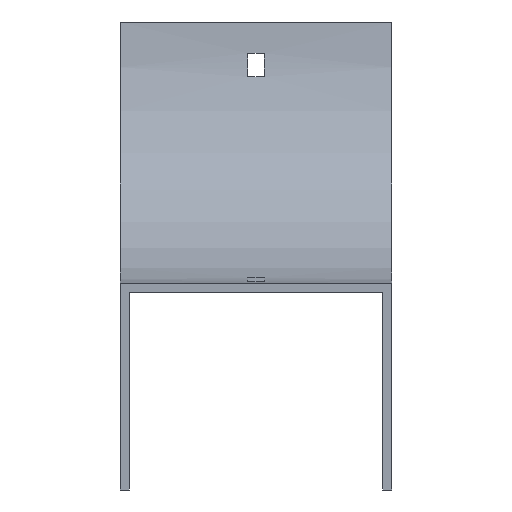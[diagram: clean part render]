
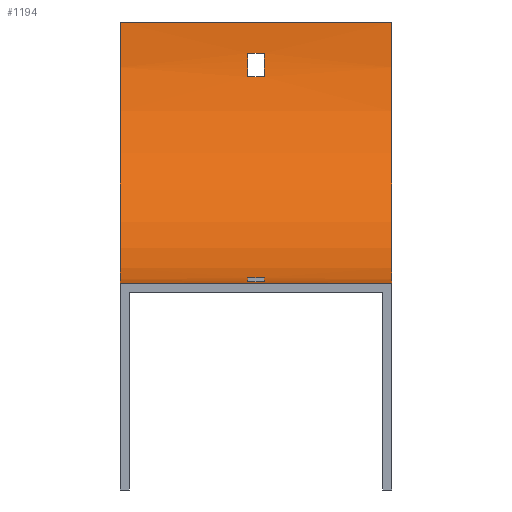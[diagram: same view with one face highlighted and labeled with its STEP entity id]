
A CAD part, front view. The second image highlights one B-rep face of the part: STEP entity #1194.
In plain terms, the highlighted cylindrical face has radius 100 mm (diameter 200 mm), a partial arc.
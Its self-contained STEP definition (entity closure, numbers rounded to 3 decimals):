
#15 = EDGE_LOOP ( 'NONE', ( #286, #810, #1552, #749 ) ) ;
#24 = CARTESIAN_POINT ( 'NONE',  ( 3.25, -88., -99.277 ) ) ;
#66 = CARTESIAN_POINT ( 'NONE',  ( -3.25, -88., -99.277 ) ) ;
#84 = ORIENTED_EDGE ( 'NONE', *, *, #838, .F. ) ;
#91 = DIRECTION ( 'NONE',  ( -1., 0., 0. ) ) ;
#93 = ORIENTED_EDGE ( 'NONE', *, *, #957, .F. ) ;
#98 = DIRECTION ( 'NONE',  ( -1., 0., 0. ) ) ;
#104 = DIRECTION ( 'NONE',  ( -1., 0., 0. ) ) ;
#106 = DIRECTION ( 'NONE',  ( -1., 0., 0. ) ) ;
#113 = VERTEX_POINT ( 'NONE', #1312 ) ;
#114 = EDGE_CURVE ( 'NONE', #1269, #695, #1587, .T. ) ;
#115 = CIRCLE ( 'NONE', #640, 100. ) ;
#124 = CARTESIAN_POINT ( 'NONE',  ( -3.25, -100., 0. ) ) ;
#129 = CARTESIAN_POINT ( 'NONE',  ( -3.25, -79., -97.77 ) ) ;
#150 = CARTESIAN_POINT ( 'NONE',  ( 52., 0., 0. ) ) ;
#174 = CARTESIAN_POINT ( 'NONE',  ( 52., -100., -100. ) ) ;
#182 = CIRCLE ( 'NONE', #1134, 100. ) ;
#193 = CARTESIAN_POINT ( 'NONE',  ( 52., -100., 0. ) ) ;
#201 = FACE_BOUND ( 'NONE', #15, .T. ) ;
#229 = AXIS2_PLACEMENT_3D ( 'NONE', #356, #104, #628 ) ;
#232 = VECTOR ( 'NONE', #923, 1000. ) ;
#234 = CARTESIAN_POINT ( 'NONE',  ( 52., -79., -97.77 ) ) ;
#257 = LINE ( 'NONE', #234, #776 ) ;
#260 = AXIS2_PLACEMENT_3D ( 'NONE', #752, #886, #351 ) ;
#286 = ORIENTED_EDGE ( 'NONE', *, *, #817, .T. ) ;
#344 = LINE ( 'NONE', #1389, #521 ) ;
#351 = DIRECTION ( 'NONE',  ( 0., 0., 1. ) ) ;
#356 = CARTESIAN_POINT ( 'NONE',  ( -52., -100., 0. ) ) ;
#373 = LINE ( 'NONE', #1279, #1222 ) ;
#395 = VERTEX_POINT ( 'NONE', #767 ) ;
#404 = EDGE_CURVE ( 'NONE', #474, #1351, #257, .T. ) ;
#407 = DIRECTION ( 'NONE',  ( -1., 0., 0. ) ) ;
#421 = CARTESIAN_POINT ( 'NONE',  ( 3.25, -100., 0. ) ) ;
#431 = VECTOR ( 'NONE', #98, 1000. ) ;
#455 = VERTEX_POINT ( 'NONE', #24 ) ;
#470 = ORIENTED_EDGE ( 'NONE', *, *, #504, .T. ) ;
#474 = VERTEX_POINT ( 'NONE', #546 ) ;
#504 = EDGE_CURVE ( 'NONE', #1332, #1268, #1471, .T. ) ;
#521 = VECTOR ( 'NONE', #1620, 1000. ) ;
#536 = CIRCLE ( 'NONE', #260, 100. ) ;
#546 = CARTESIAN_POINT ( 'NONE',  ( 3.25, -79., -97.77 ) ) ;
#555 = CARTESIAN_POINT ( 'NONE',  ( -52., -100., -100. ) ) ;
#598 = DIRECTION ( 'NONE',  ( -1., 0., 0. ) ) ;
#609 = EDGE_CURVE ( 'NONE', #746, #113, #115, .T. ) ;
#628 = DIRECTION ( 'NONE',  ( 0., 0., 1. ) ) ;
#631 = ORIENTED_EDGE ( 'NONE', *, *, #1375, .T. ) ;
#633 = CARTESIAN_POINT ( 'NONE',  ( 52., 0., 0. ) ) ;
#640 = AXIS2_PLACEMENT_3D ( 'NONE', #1171, #662, #1276 ) ;
#662 = DIRECTION ( 'NONE',  ( -1., 0., 0. ) ) ;
#695 = VERTEX_POINT ( 'NONE', #555 ) ;
#735 = VERTEX_POINT ( 'NONE', #66 ) ;
#746 = VERTEX_POINT ( 'NONE', #931 ) ;
#749 = ORIENTED_EDGE ( 'NONE', *, *, #609, .T. ) ;
#752 = CARTESIAN_POINT ( 'NONE',  ( -3.25, -100., 0. ) ) ;
#767 = CARTESIAN_POINT ( 'NONE',  ( -3.25, -2.23, -21. ) ) ;
#776 = VECTOR ( 'NONE', #106, 1000. ) ;
#810 = ORIENTED_EDGE ( 'NONE', *, *, #1271, .T. ) ;
#813 = DIRECTION ( 'NONE',  ( 0., -1., 0. ) ) ;
#816 = EDGE_LOOP ( 'NONE', ( #631, #1461, #1580, #470 ) ) ;
#817 = EDGE_CURVE ( 'NONE', #113, #395, #373, .T. ) ;
#838 = EDGE_CURVE ( 'NONE', #1351, #735, #1572, .T. ) ;
#886 = DIRECTION ( 'NONE',  ( 1., 0., 0. ) ) ;
#900 = ORIENTED_EDGE ( 'NONE', *, *, #1472, .F. ) ;
#923 = DIRECTION ( 'NONE',  ( -1., 0., 0. ) ) ;
#931 = CARTESIAN_POINT ( 'NONE',  ( 3.25, -0.723, -12. ) ) ;
#939 = DIRECTION ( 'NONE',  ( 1., 0., 0. ) ) ;
#957 = EDGE_CURVE ( 'NONE', #735, #455, #1535, .T. ) ;
#1025 = CARTESIAN_POINT ( 'NONE',  ( 52., -100., -100. ) ) ;
#1127 = VERTEX_POINT ( 'NONE', #1654 ) ;
#1132 = EDGE_CURVE ( 'NONE', #1127, #746, #344, .T. ) ;
#1134 = AXIS2_PLACEMENT_3D ( 'NONE', #1595, #407, #1176 ) ;
#1171 = CARTESIAN_POINT ( 'NONE',  ( 3.25, -100., 0. ) ) ;
#1176 = DIRECTION ( 'NONE',  ( 0., 0., 1. ) ) ;
#1194 = ADVANCED_FACE ( 'NONE', ( #1374, #201, #1366 ), #1239, .F. ) ;
#1222 = VECTOR ( 'NONE', #1254, 1000. ) ;
#1239 = CYLINDRICAL_SURFACE ( 'NONE', #1486, 100. ) ;
#1240 = DIRECTION ( 'NONE',  ( 0., 1., 0. ) ) ;
#1248 = DIRECTION ( 'NONE',  ( 0., 0., 1. ) ) ;
#1254 = DIRECTION ( 'NONE',  ( -1., 0., 0. ) ) ;
#1261 = EDGE_LOOP ( 'NONE', ( #84, #1400, #900, #93 ) ) ;
#1268 = VERTEX_POINT ( 'NONE', #1425 ) ;
#1269 = VERTEX_POINT ( 'NONE', #1025 ) ;
#1271 = EDGE_CURVE ( 'NONE', #395, #1127, #536, .T. ) ;
#1276 = DIRECTION ( 'NONE',  ( 0., 0., -1. ) ) ;
#1279 = CARTESIAN_POINT ( 'NONE',  ( 52., -2.23, -21. ) ) ;
#1312 = CARTESIAN_POINT ( 'NONE',  ( 3.25, -2.23, -21. ) ) ;
#1332 = VERTEX_POINT ( 'NONE', #633 ) ;
#1351 = VERTEX_POINT ( 'NONE', #129 ) ;
#1366 = FACE_BOUND ( 'NONE', #1261, .T. ) ;
#1374 = FACE_OUTER_BOUND ( 'NONE', #816, .T. ) ;
#1375 = EDGE_CURVE ( 'NONE', #1268, #695, #1463, .T. ) ;
#1389 = CARTESIAN_POINT ( 'NONE',  ( 52., -0.723, -12. ) ) ;
#1400 = ORIENTED_EDGE ( 'NONE', *, *, #404, .F. ) ;
#1425 = CARTESIAN_POINT ( 'NONE',  ( -52., 0., 0. ) ) ;
#1456 = CARTESIAN_POINT ( 'NONE',  ( 52., -88., -99.277 ) ) ;
#1461 = ORIENTED_EDGE ( 'NONE', *, *, #114, .F. ) ;
#1463 = CIRCLE ( 'NONE', #229, 100. ) ;
#1471 = LINE ( 'NONE', #150, #232 ) ;
#1472 = EDGE_CURVE ( 'NONE', #455, #474, #1518, .T. ) ;
#1476 = DIRECTION ( 'NONE',  ( 1., 0., 0. ) ) ;
#1486 = AXIS2_PLACEMENT_3D ( 'NONE', #193, #598, #1248 ) ;
#1518 = CIRCLE ( 'NONE', #1640, 100. ) ;
#1535 = LINE ( 'NONE', #1456, #1644 ) ;
#1552 = ORIENTED_EDGE ( 'NONE', *, *, #1132, .T. ) ;
#1572 = CIRCLE ( 'NONE', #1687, 100. ) ;
#1580 = ORIENTED_EDGE ( 'NONE', *, *, #1661, .F. ) ;
#1587 = LINE ( 'NONE', #174, #431 ) ;
#1595 = CARTESIAN_POINT ( 'NONE',  ( 52., -100., 0. ) ) ;
#1620 = DIRECTION ( 'NONE',  ( 1., 0., 0. ) ) ;
#1640 = AXIS2_PLACEMENT_3D ( 'NONE', #421, #939, #813 ) ;
#1644 = VECTOR ( 'NONE', #1476, 1000. ) ;
#1654 = CARTESIAN_POINT ( 'NONE',  ( -3.25, -0.723, -12. ) ) ;
#1661 = EDGE_CURVE ( 'NONE', #1332, #1269, #182, .T. ) ;
#1687 = AXIS2_PLACEMENT_3D ( 'NONE', #124, #91, #1240 ) ;
